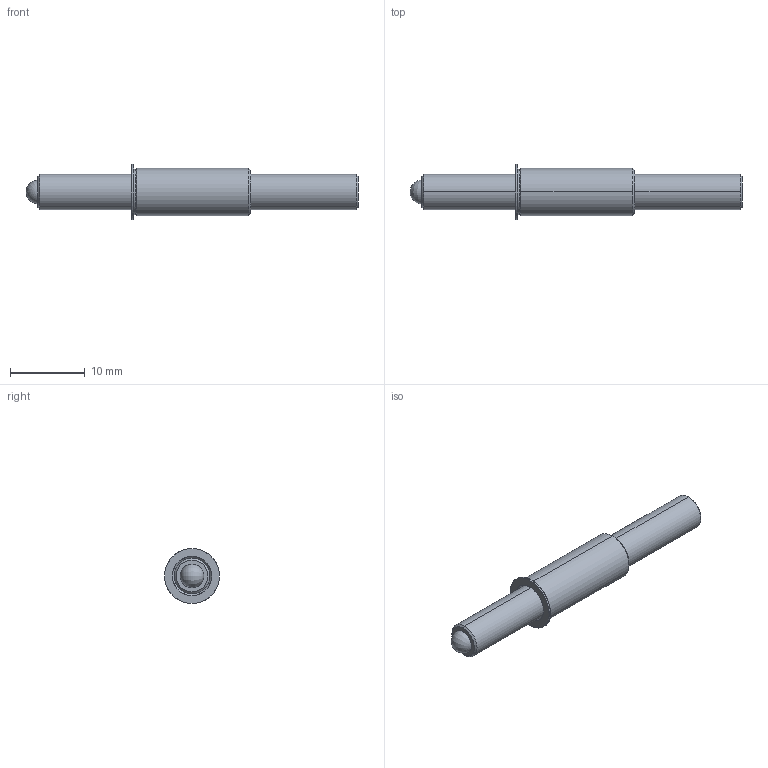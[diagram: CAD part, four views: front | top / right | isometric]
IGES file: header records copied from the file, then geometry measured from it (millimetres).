
Start section: SolidWorks IGES file using analytic representation for surfaces
Global section: file name: C:\Users\workpc\Desktop\KMA Solidworks\TSB187-100-1750_625.IGS; native system: SolidWorks 2013; preprocessor: SolidWorks 2013; author: workpc; date: 130313.093616; units: inch
Bounding box: 44.45 x 7.37 x 7.37 mm (x, y, z)
Surface area: 1077.9 mm2 (no closed solid volume)
Topology: 0 solids, 0 shells, 33 faces, 406 edges, 402 vertices
Faces by surface type: revolution 22, bspline 11
